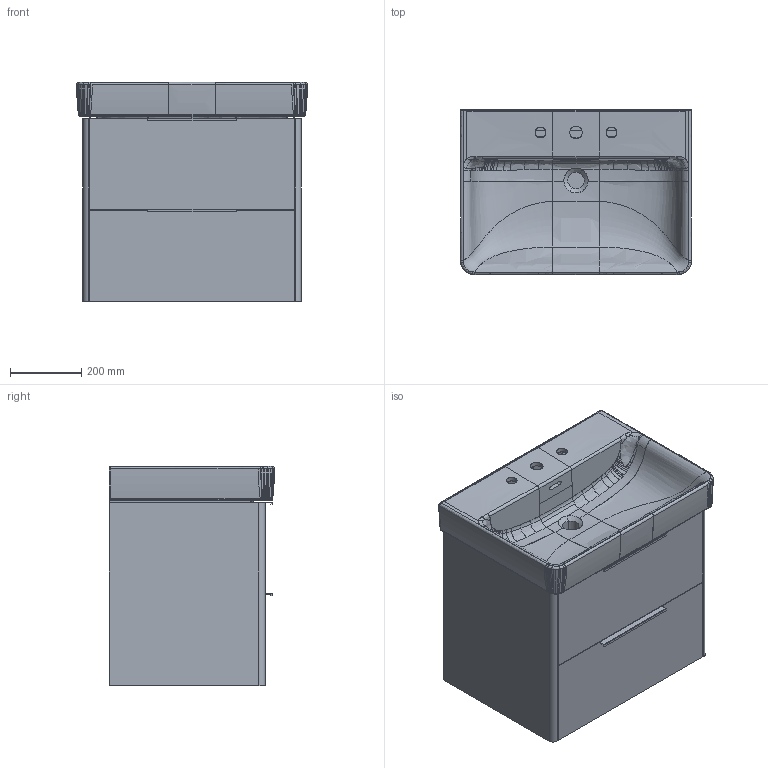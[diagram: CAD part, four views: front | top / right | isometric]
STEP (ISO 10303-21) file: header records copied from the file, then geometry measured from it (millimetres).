
FILE_DESCRIPTION(/* description */ (''),/* implementation_level */ '2;1');
FILE_NAME(/* name */ 'C:\Users\User33\Desktop\Base\3D01_402292.stp',/* time_stamp */ '2018-05-05T14:40:27+02:00',/* author */ ('User33'),/* organization */ (''),/* preprocessor_version */ 'ST-DEVELOPER v16.13',/* originating_system */ 'Autodesk Inventor 2018',/* authorisation */ '');
FILE_SCHEMA (('AUTOMOTIVE_DESIGN { 1 0 10303 214 3 1 1 }'));
Products named in the file (24): Scheletro monoblocco curvo 615; Catena_superiore; Frontale cassetto superiore; Catena inferiore; Fianco sx; Fianco dx; Fondo mobile; Fondo cassetto superiore; Fondo cassetto inferiore; Retro cassetto superiore; Fascia rialzo; Retro_cassetto inferiore; Frontale cassetto inferiore; Maniglia superiore; maniglia inferiore; 350-84; 350-84_1; 350-84_2; 350-84_3; 350-84_MIR2; 350-84_1_MIR2; 350-84_2_MIR2; 350-84_3_MIR2; HY10964......1_A
Assembly tree (25 placements, depth 3):
  Scheletro monoblocco curvo 615
    Catena_superiore
    Frontale cassetto superiore
    Catena inferiore
    Fianco sx
    Fianco dx
    Fondo mobile
    Fondo cassetto superiore
    Fondo cassetto inferiore
    Retro cassetto superiore
    Fascia rialzo
    Retro_cassetto inferiore
    Frontale cassetto inferiore
    Maniglia superiore
    maniglia inferiore
    350-84  x2
      350-84_1
      350-84_2
      350-84_3
    350-84_MIR2  x2
      350-84_1_MIR2
      350-84_2_MIR2
      350-84_3_MIR2
    HY10964......1_A
Bounding box: 649.94 x 464.97 x 617 mm (x, y, z)
Volume: 27993309.2 mm3; surface area: 5201165.5 mm2
Topology: 28 solids, 909 shells, 1844 faces, 7318 edges, 6445 vertices
Faces by surface type: plane 865, bspline 743, cylinder 206, cone 21, sphere 6, torus 3
Full cylindrical faces by diameter (mm): 4 x16, 4.1 x4, 5 x8, 5.1 x4, 6 x12, 6.3 x48
Entity records: 235158 total; most frequent: CARTESIAN_POINT 190835, ORIENTED_EDGE 7489, EDGE_CURVE 6096, DIRECTION 6040, VERTEX_POINT 5665, B_SPLINE_CURVE_WITH_KNOTS 2442, AXIS2_PLACEMENT_3D 2189, LINE 1662
